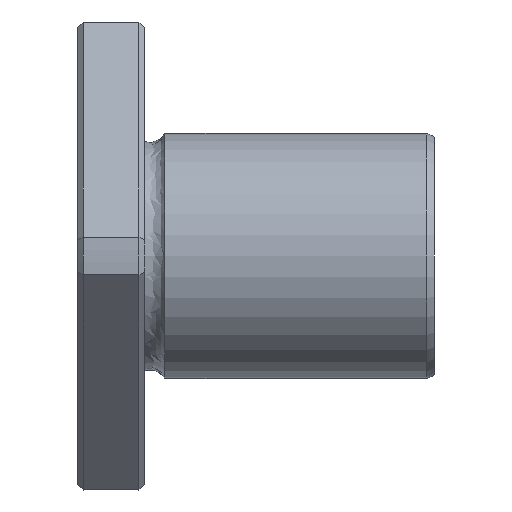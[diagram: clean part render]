
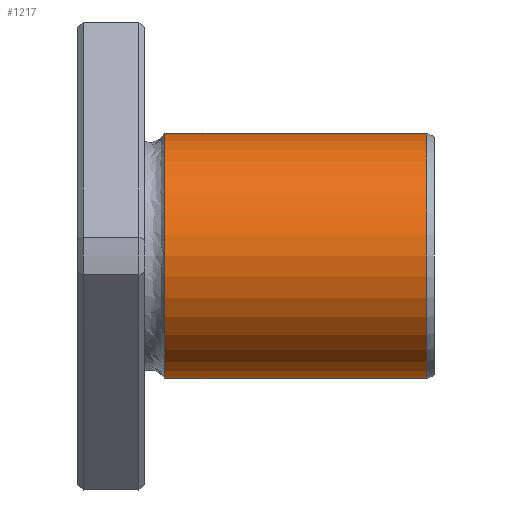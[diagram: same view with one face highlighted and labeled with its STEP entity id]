
A CAD part, front view. The second image highlights one B-rep face of the part: STEP entity #1217.
In plain terms, the highlighted cylindrical face has radius 11 mm (diameter 22 mm), a full revolution.
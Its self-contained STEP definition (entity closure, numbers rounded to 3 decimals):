
#1183=CARTESIAN_POINT('',(31.304,0.0,11.));
#1184=VERTEX_POINT('',#1183);
#1185=CARTESIAN_POINT('',(31.304,0.0,0.0));
#1186=DIRECTION('',(-1.0,0.0,0.0));
#1187=DIRECTION('',(0.0,0.0,1.0));
#1188=AXIS2_PLACEMENT_3D('',#1185,#1186,#1187);
#1189=CIRCLE('',#1188,11.);
#1190=EDGE_CURVE('',#1184,#1184,#1189,.T.);
#1198=CARTESIAN_POINT('',(19.565,0.0,0.0));
#1199=DIRECTION('',(-1.0,0.0,0.0));
#1200=DIRECTION('',(0.0,0.0,1.0));
#1201=AXIS2_PLACEMENT_3D('',#1198,#1199,#1200);
#1202=CYLINDRICAL_SURFACE('',#1201,11.);
#1203=CARTESIAN_POINT('',(7.827,0.0,11.));
#1204=VERTEX_POINT('',#1203);
#1205=CARTESIAN_POINT('',(7.827,0.0,0.0));
#1206=DIRECTION('',(-1.0,0.0,0.0));
#1207=DIRECTION('',(0.0,0.0,1.0));
#1208=AXIS2_PLACEMENT_3D('',#1205,#1206,#1207);
#1209=CIRCLE('',#1208,11.);
#1210=EDGE_CURVE('',#1204,#1204,#1209,.T.);
#1211=ORIENTED_EDGE('',*,*,#1210,.F.);
#1212=EDGE_LOOP('',(#1211));
#1213=FACE_OUTER_BOUND('',#1212,.T.);
#1214=ORIENTED_EDGE('',*,*,#1190,.T.);
#1215=EDGE_LOOP('',(#1214));
#1216=FACE_BOUND('',#1215,.T.);
#1217=ADVANCED_FACE('',(#1213,#1216),#1202,.T.);
